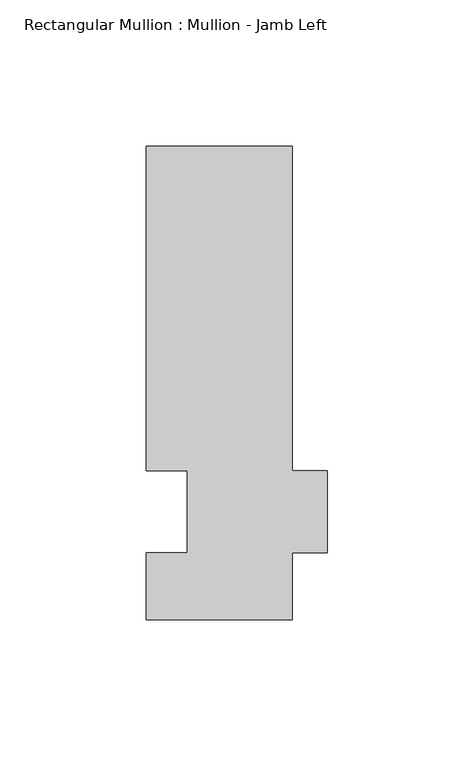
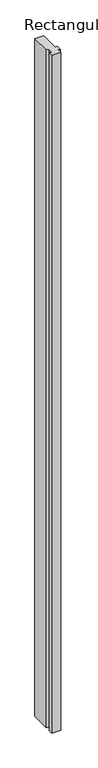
"""IFC4 building model written with IfcOpenShell, lengths in millimetres: member geometry, Rectangular Mullion : Mullion - Jamb Left."""

from ifc_helpers import new_model, si_unit, frame, origin, place, context, project, spatial, polyline, outline, extrude, source, transform, mapped, element, save


def rectangular_mullion_mullion_jamb_left_ca3dfa91(model_context):
    return source(origin(), model_context, "Body", "SweptSolid", [
        extrude(outline(polyline([(-61.980921, -14.0), (-47.980921, -14.0), (-47.980921, 14.0), (-61.980921, 14.0), (-61.980921, 125.0), (-11.980921, 125.0), (-11.980921, 14.0), (0.0, 14.0), (0.0, -14.0), (-11.980921, -14.0), (-11.980921, -37.0), (-61.980921, -37.0), (-61.980921, -14.0)])), frame((0.0, 0.0, -4000.0), z_axis=(0.0, 0.0, 1.0), x_axis=(1.0, 0.0, 0.0)), (0.0, 0.0, 1.0), 4000.0),
    ])


if __name__ == "__main__":
    model = new_model("IFC4")
    model_context = context("Model", 3, world=origin())
    ifc_project = project(units=[si_unit("LENGTHUNIT", "METRE", prefix="MILLI")], contexts=[model_context])
    site = spatial("IfcSite", under=ifc_project)
    building = spatial("IfcBuilding", under=site)
    placement = place(None, origin())
    rectangular_mullion_mullion_jamb_left_shape = rectangular_mullion_mullion_jamb_left_ca3dfa91(model_context)
    element("IfcMember", 1, ObjectType="Rectangular Mullion : Mullion - Jamb Left", at=placement, inside=building, context=model_context, shape_type="MappedRepresentation", body=[
        mapped(rectangular_mullion_mullion_jamb_left_shape, transform((0.0, 0.0, 0.0), x_axis=(1.0, 0.0, 0.0), y_axis=(0.0, 1.0, 0.0), z_axis=(0.0, 0.0, 1.0))),
    ])
    save(model, "model.ifc")
